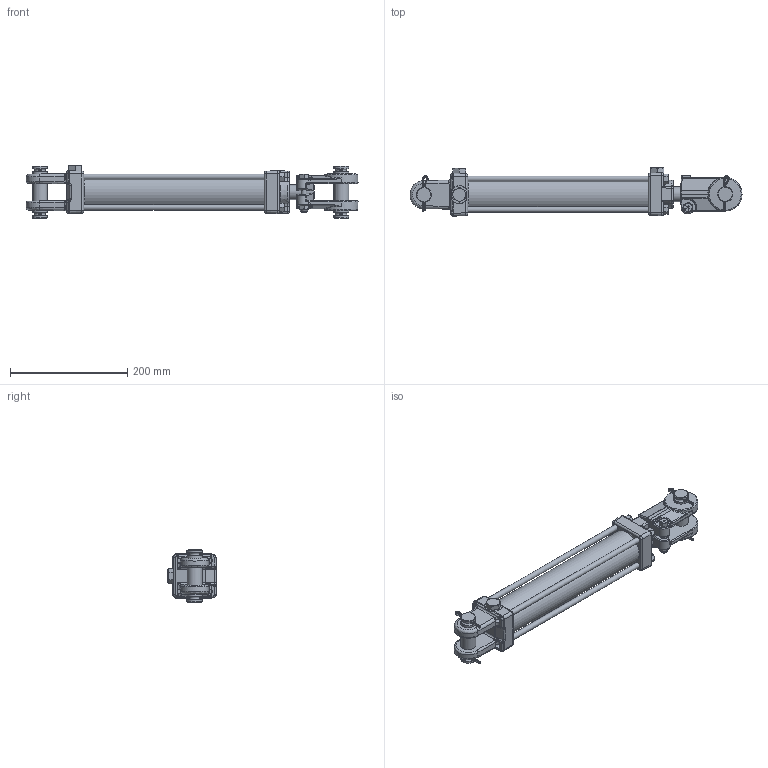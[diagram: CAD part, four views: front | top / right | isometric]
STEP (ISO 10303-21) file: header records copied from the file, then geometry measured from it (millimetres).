
FILE_DESCRIPTION((''),'2;1');
FILE_NAME('C:\Vault\Workspace\Vest\SAE-8410.stp','2010-02-12T07:23:15',('KneiflD'),(''),'Autodesk Inventor 2010','Autodesk Inventor 2010','');
FILE_SCHEMA(('AUTOMOTIVE_DESIGN { 1 0 10303 214 1 1 1 1 }'));
Length unit declared in the file: inch
Products named in the file (24): SAE-8410; 051112063A; 1411005SFV; 0811ABASFV; 010400009; 100000425V; 100000424V; 170002104V; 220000203V; 071100004V; 220000208V; 200300040V; 190400001V; 220001504V; 170103141; 800003701-14.125; 220000103V; 240000224V; 240061224V; 240063326V; 240000326V; 240000018V; 240037002V; 250001214V
Assembly tree (35 placements, depth 3):
  SAE-8410
    051112063A
    1411005SFV
    0811ABASFV
    010400009
    100000425V
      100000424V
      170002104V
      220000203V
    071100004V
    220000208V
    200300040V  x3
    190400001V  x2
    220001504V  x4
    170103141  x4
      800003701-14.125
      220000103V
    240000224V  x2
    240061224V  x2
    240063326V  x2
    240000326V
    240000018V
    240037002V
    250001214V
Bounding box: 566.74 x 82.3 x 89.4 mm (x, y, z)
Volume: 1242364.1 mm3; surface area: 356215.2 mm2
Topology: 36 solids, 36 shells, 1000 faces, 2311 edges, 1380 vertices
Faces by surface type: plane 312, bspline 268, cylinder 223, cone 150, torus 26, sphere 21
Full cylindrical faces by diameter (mm): 1.143 x2, 5.159 x4, 9.493 x1, 9.525 x4, 10.319 x2, 16.764 x3, 18.999 x1, 19.05 x3, 19.126 x1, 21.59 x1, 25.4 x7, 25.425 x1, 25.476 x2, 25.781 x4, 28.397 x1, 28.423 x1, 30.175 x1, 31.115 x1, 31.725 x1, 31.75 x2, 34.925 x1, 41.402 x1, 44.45 x2, 44.958 x2, 45.161 x2, 50.292 x2, 50.444 x2, 50.571 x6, 50.8 x1, 60.325 x1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
Entity records: 28442 total; most frequent: CARTESIAN_POINT 11187, ORIENTED_EDGE 3390, DIRECTION 3202, EDGE_CURVE 1695, AXIS2_PLACEMENT_3D 1313, VERTEX_POINT 1074, EDGE_LOOP 989, FACE_OUTER_BOUND 793
